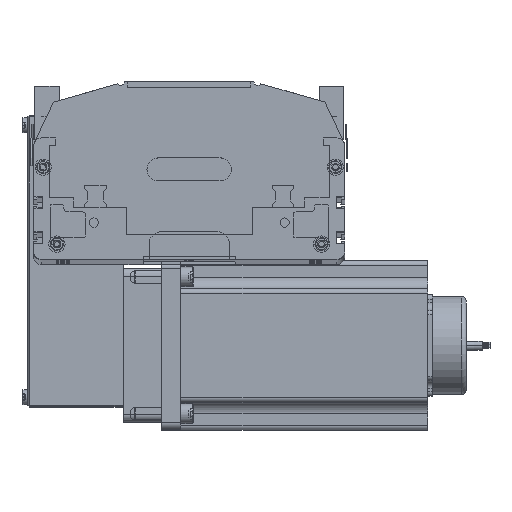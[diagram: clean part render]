
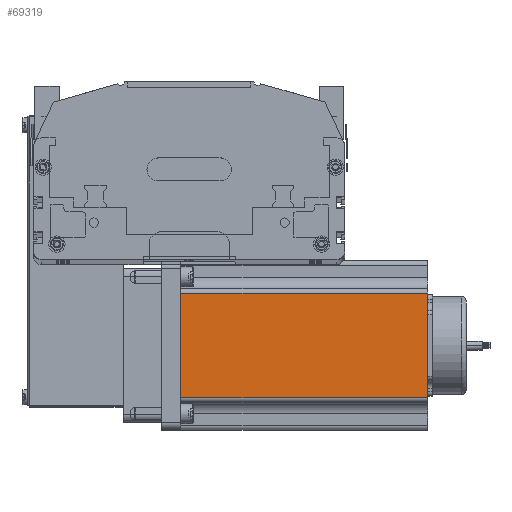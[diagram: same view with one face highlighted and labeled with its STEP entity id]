
A CAD part, top view. The second image highlights one B-rep face of the part: STEP entity #69319.
In plain terms, the highlighted planar face has unit normal (0, 0, 1) as drawn and (0, -1, 0) by its records, which use the part's own axes.
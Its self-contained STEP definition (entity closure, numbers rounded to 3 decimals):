
#5350 = CARTESIAN_POINT ( 'NONE',  ( 21.048, 0., 0. ) ) ;
#6128 = CARTESIAN_POINT ( 'NONE',  ( 88.952, 0., 160.5 ) ) ;
#6162 = CARTESIAN_POINT ( 'NONE',  ( 21.048, 0., 160.5 ) ) ;
#6169 = PLANE ( 'NONE',  #6212 ) ;
#6179 = DIRECTION ( 'NONE',  ( 0., 0., -1. ) ) ;
#6180 = VECTOR ( 'NONE', #6179, 1000. ) ;
#6181 = CARTESIAN_POINT ( 'NONE',  ( 21.048, 0., 160.5 ) ) ;
#6182 = LINE ( 'NONE', #6181, #6180 ) ;
#6184 = LINE ( 'NONE', #6202, #6201 ) ;
#6186 = DIRECTION ( 'NONE',  ( 1., 0., 0. ) ) ;
#6187 = VECTOR ( 'NONE', #6186, 1000. ) ;
#6191 = CARTESIAN_POINT ( 'NONE',  ( 0., 0., 160.5 ) ) ;
#6192 = LINE ( 'NONE', #6191, #6187 ) ;
#6200 = DIRECTION ( 'NONE',  ( 1., 0., 0. ) ) ;
#6201 = VECTOR ( 'NONE', #6200, 1000. ) ;
#6202 = CARTESIAN_POINT ( 'NONE',  ( 0., 0., 0. ) ) ;
#6203 = DIRECTION ( 'NONE',  ( 0., 0., 1. ) ) ;
#6204 = VECTOR ( 'NONE', #6203, 1000. ) ;
#6205 = CARTESIAN_POINT ( 'NONE',  ( 88.952, 0., 0. ) ) ;
#6206 = DIRECTION ( 'NONE',  ( 0., 0., 1. ) ) ;
#6207 = DIRECTION ( 'NONE',  ( 0., 1., 0. ) ) ;
#6210 = CARTESIAN_POINT ( 'NONE',  ( 88.952, 0., 160.5 ) ) ;
#6211 = LINE ( 'NONE', #6210, #6204 ) ;
#6212 = AXIS2_PLACEMENT_3D ( 'NONE', #6216, #6207, #6206 ) ;
#6216 = CARTESIAN_POINT ( 'NONE',  ( 0., 0., 160.5 ) ) ;
#6220 = FACE_OUTER_BOUND ( 'NONE', #69233, .T. ) ;
#69214 = VERTEX_POINT ( 'NONE', #5350 ) ;
#69229 = ORIENTED_EDGE ( 'NONE', *, *, #69326, .T. ) ;
#69231 = VERTEX_POINT ( 'NONE', #6128 ) ;
#69233 = EDGE_LOOP ( 'NONE', ( #69229, #69286, #69321, #69291 ) ) ;
#69286 = ORIENTED_EDGE ( 'NONE', *, *, #69325, .T. ) ;
#69287 = EDGE_CURVE ( 'NONE', #69324, #69231, #6192, .T. ) ;
#69291 = ORIENTED_EDGE ( 'NONE', *, *, #69293, .T. ) ;
#69293 = EDGE_CURVE ( 'NONE', #69324, #69214, #6182, .T. ) ;
#69319 = ADVANCED_FACE ( 'NONE', ( #6220 ), #6169, .F. ) ;
#69321 = ORIENTED_EDGE ( 'NONE', *, *, #69287, .F. ) ;
#69324 = VERTEX_POINT ( 'NONE', #6162 ) ;
#69325 = EDGE_CURVE ( 'NONE', #69327, #69231, #6211, .T. ) ;
#69326 = EDGE_CURVE ( 'NONE', #69214, #69327, #6184, .T. ) ;
#69327 = VERTEX_POINT ( 'NONE', #6205 ) ;
